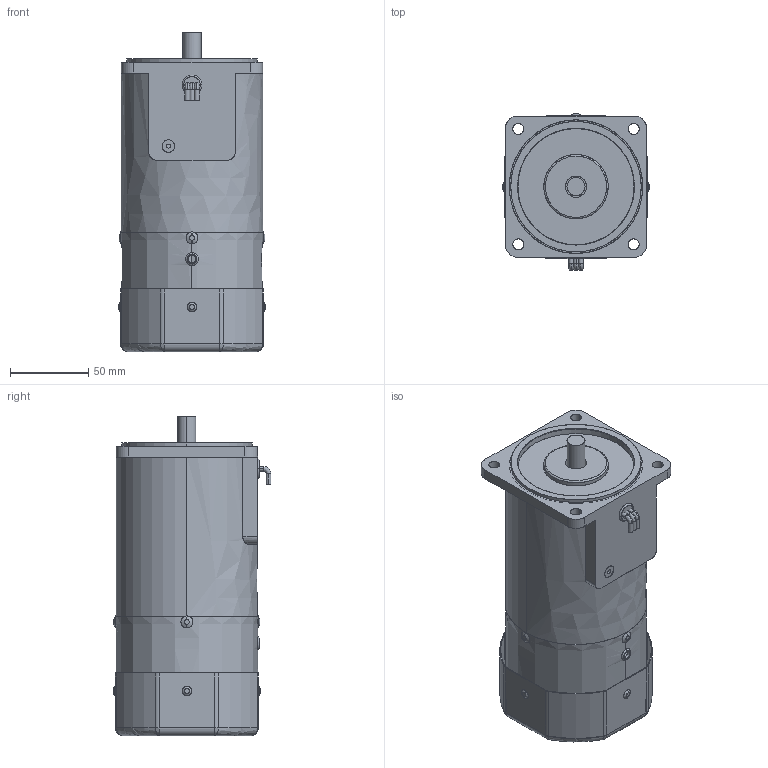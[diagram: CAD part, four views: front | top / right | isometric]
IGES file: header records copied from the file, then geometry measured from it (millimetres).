
Start section: SolidWorks IGES file using analytic representation for surfaces
Bounding box: 94 x 100.5 x 203.5 mm (x, y, z)
Surface area: 180657.5 mm2 (no closed solid volume)
Topology: 0 solids, 0 shells, 280 faces, 6000 edges, 5984 vertices
Faces by surface type: revolution 158, bspline 122
